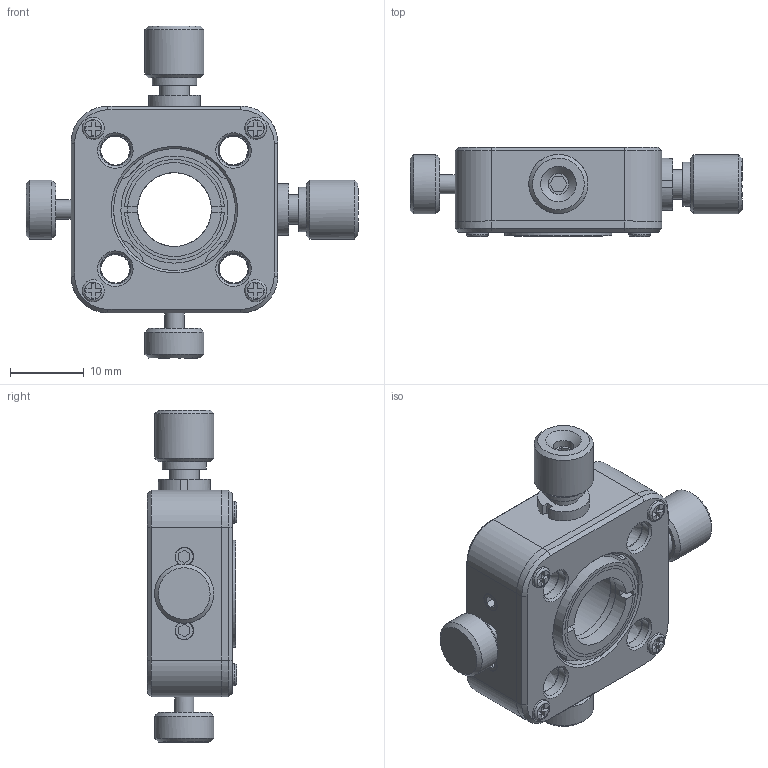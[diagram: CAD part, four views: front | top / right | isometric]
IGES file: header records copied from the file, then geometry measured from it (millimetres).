
Global section: file name: C16-LHC-12.7; native system: Autodesk Inventor 2018; preprocessor: unknown; author: e.nonaka; date: 20190220.120051; units: millimetre
Bounding box: 44.96 x 12.1 x 44.96 mm (x, y, z)
Volume: 7249.5 mm3; surface area: 6752.8 mm2
Topology: 1 solids, 1 shells, 432 faces, 1155 edges, 766 vertices
Faces by surface type: bspline 432
